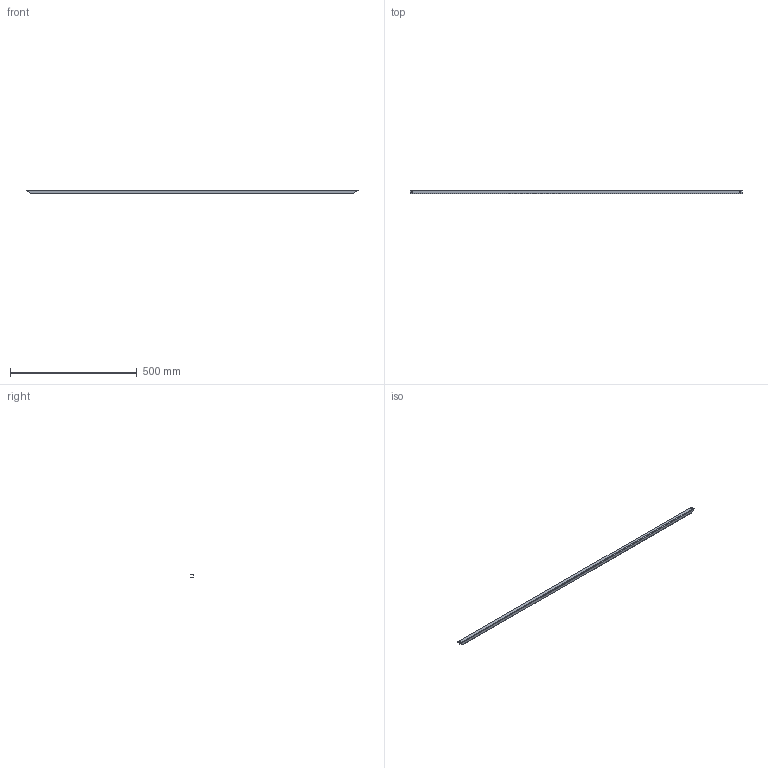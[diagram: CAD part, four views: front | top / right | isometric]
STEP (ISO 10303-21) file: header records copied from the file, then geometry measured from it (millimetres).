
FILE_DESCRIPTION (( 'STEP AP203' ), '1' );
FILE_NAME ('VB 140 Ðåéêà.STEP', '2012-11-15T06:57:49', ( 'Àëåêñàíäð' ), ( 'Ïðîâåíòî' ), 'SwSTEP 2.0', 'SolidWorks 2012', '' );
FILE_SCHEMA (( 'CONFIG_CONTROL_DESIGN' ));
Length unit declared in the file: millimetre
Products named in the file (1): VB 140 Ðåéêà
Bounding box: 1310 x 15 x 15.5 mm (x, y, z)
Volume: 63340.2 mm3; surface area: 109610.6 mm2
Topology: 1 solids, 1 shells, 138 faces, 408 edges, 272 vertices
Faces by surface type: cylinder 114, plane 24
Entity records: 5053 total; most frequent: DIRECTION 910, CARTESIAN_POINT 855, ORIENTED_EDGE 816, EDGE_CURVE 408, AXIS2_PLACEMENT_3D 367, VERTEX_POINT 272, EDGE_LOOP 242, CIRCLE 228
